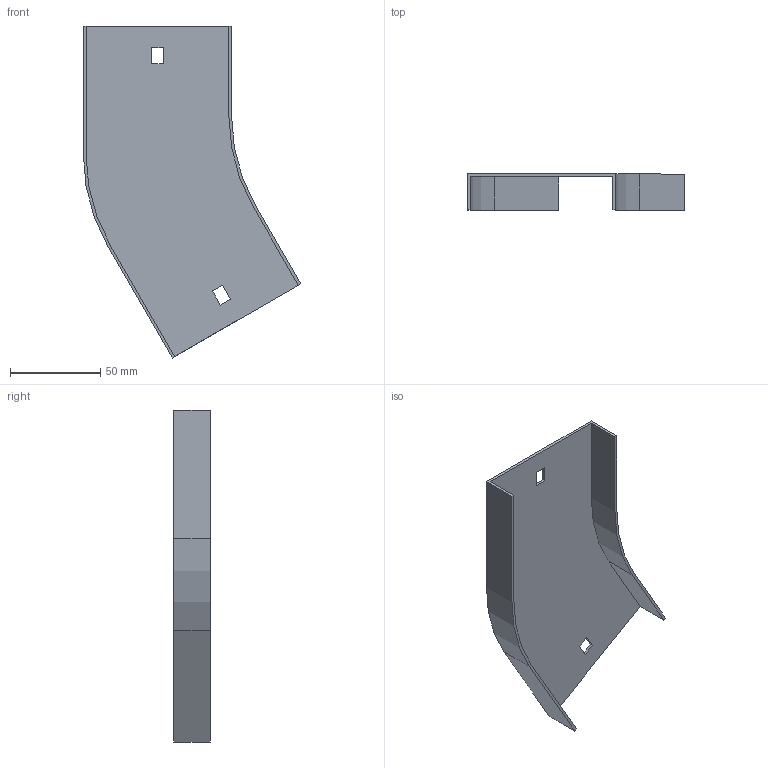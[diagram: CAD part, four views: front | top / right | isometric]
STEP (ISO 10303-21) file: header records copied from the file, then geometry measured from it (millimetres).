
FILE_DESCRIPTION (( 'STEP AP214' ), '1' );
FILE_NAME ('12N1R075.step', '2025-02-21T09:20:00', ( '' ), ( '' ), 'SwSTEP 2.0', 'SolidWorks 2023', '' );
FILE_SCHEMA (( 'AUTOMOTIVE_DESIGN' ));
Length unit declared in the file: millimetre
Products named in the file (1): 12N1R075
Bounding box: 120.2 x 20 x 183.55 mm (x, y, z)
Volume: 30945 mm3; surface area: 42230.5 mm2
Topology: 1 solids, 1 shells, 26 faces, 72 edges, 48 vertices
Faces by surface type: plane 22, cylinder 4
Entity records: 855 total; most frequent: CARTESIAN_POINT 147, ORIENTED_EDGE 144, DIRECTION 134, EDGE_CURVE 72, LINE 64, VECTOR 64, VERTEX_POINT 48, AXIS2_PLACEMENT_3D 35
